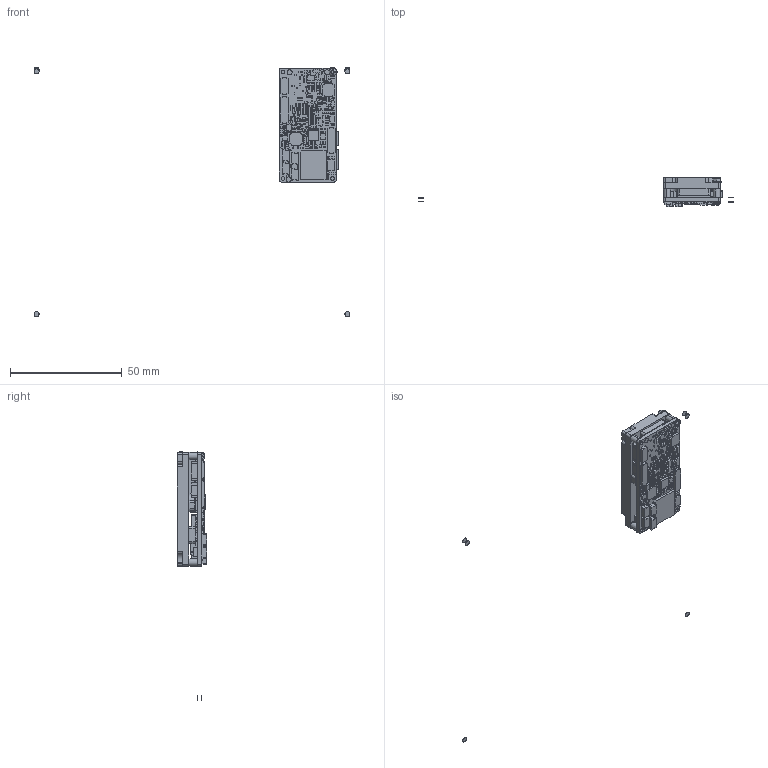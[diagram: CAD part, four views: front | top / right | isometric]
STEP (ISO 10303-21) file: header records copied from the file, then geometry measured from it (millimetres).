
FILE_DESCRIPTION (( 'STEP AP214' ), '1' );
FILE_NAME ('338_0000_V03.STEP', '2023-08-17T03:19:18', ( '' ), ( '' ), 'SwSTEP 2.0', 'SolidWorks 2019', '' );
FILE_SCHEMA (( 'AUTOMOTIVE_DESIGN' ));
Length unit declared in the file: millimetre
Products named in the file (8): 90965A120_316 Stainless Steel Washer_90965A120; 338_0000_V03; 338_1001_V03; 92000A006_Passivated 18-8 Stainless Steel Pan Head Phillips Screws_92000A006; BIVAR_SPACER 937-4MM; 399_1003_V03; 91828A006_18-8 Stainless Steel Hex Nut_91828A006; Jupiter_Nano_R2_HIGHT_COMPARED
Assembly tree (10 placements, depth 2):
  338_0000_V03
    338_1001_V03
    BIVAR_SPACER 937-4MM  x4
    Jupiter_Nano_R2_HIGHT_COMPARED
    399_1003_V03
    92000A006_Passivated 18-8 Stainless Steel Pan Head Phillips Screws_92000A006
    90965A120_316 Stainless Steel Washer_90965A120
    91828A006_18-8 Stainless Steel Hex Nut_91828A006
Bounding box: 141.35 x 13.28 x 111.51 mm (x, y, z)
Volume: 12311.4 mm3; surface area: 12198.1 mm2
Topology: 439 solids, 439 shells, 6198 faces, 16046 edges, 10738 vertices
Faces by surface type: plane 5863, cylinder 296, cone 27, bspline 6, torus 4, sphere 2
Entity records: 256725 total; most frequent: CARTESIAN_POINT 37192, ORIENTED_EDGE 32016, DIRECTION 28279, EDGE_CURVE 16008, LINE 15229, VECTOR 15229, VERTEX_POINT 10713, AXIS2_PLACEMENT_3D 6525
